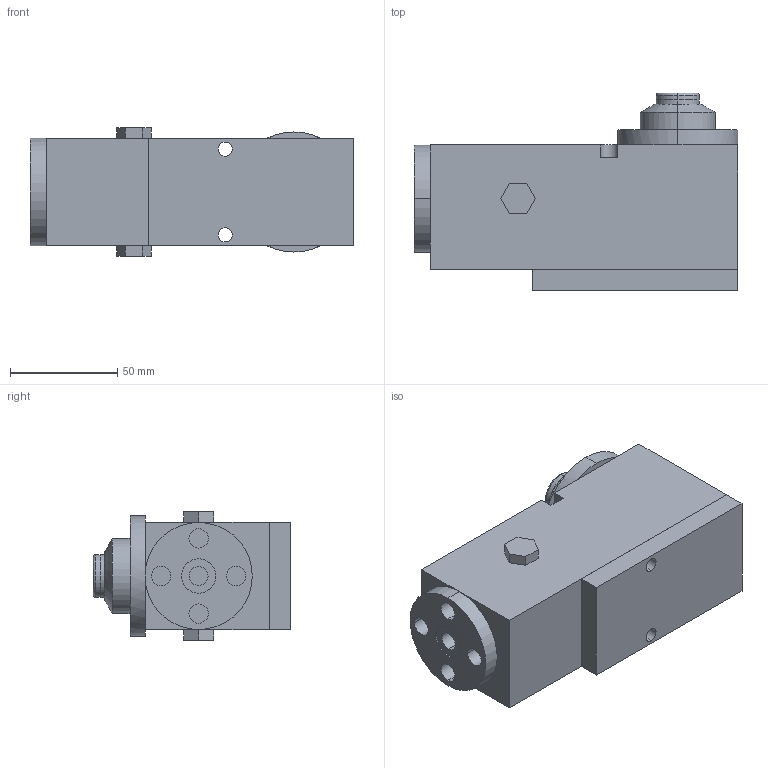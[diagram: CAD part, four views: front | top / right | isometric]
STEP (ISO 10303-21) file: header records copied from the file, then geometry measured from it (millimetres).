
FILE_DESCRIPTION (( 'STEP AP214' ), '1' );
FILE_NAME ('J21301.STEP', '2022-06-15T07:29:10', ( '' ), ( '' ), 'SwSTEP 2.0', 'SolidWorks 2016', '' );
FILE_SCHEMA (( 'AUTOMOTIVE_DESIGN' ));
Length unit declared in the file: millimetre
Products named in the file (1): J21301
Bounding box: 151 x 92.2 x 60 mm (x, y, z)
Volume: 487882.5 mm3; surface area: 64978 mm2
Topology: 4 solids, 4 shells, 118 faces, 267 edges, 172 vertices
Faces by surface type: plane 61, cylinder 53, torus 2, cone 2
Entity records: 3720 total; most frequent: DIRECTION 621, CARTESIAN_POINT 570, ORIENTED_EDGE 534, EDGE_CURVE 267, AXIS2_PLACEMENT_3D 239, VERTEX_POINT 172, EDGE_LOOP 145, VECTOR 143
